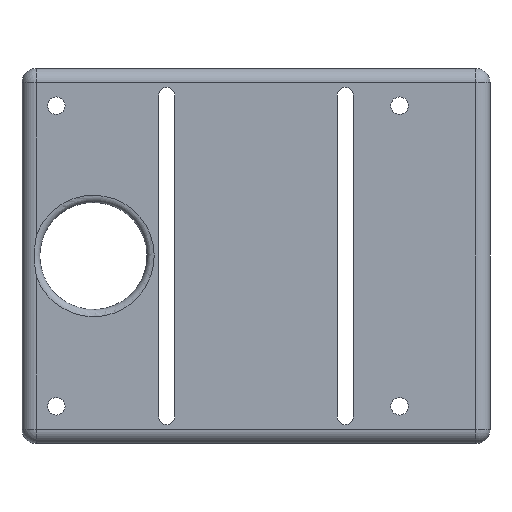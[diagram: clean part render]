
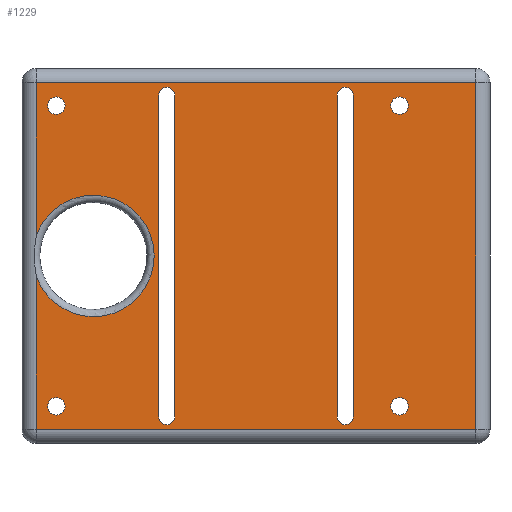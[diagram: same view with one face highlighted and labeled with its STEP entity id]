
A CAD part, left-side view. The second image highlights one B-rep face of the part: STEP entity #1229.
In plain terms, the highlighted planar face has unit normal (-1, 0, 0).
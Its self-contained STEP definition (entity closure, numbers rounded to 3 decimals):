
#27=FACE_BOUND('',#428,.T.);
#28=FACE_BOUND('',#429,.T.);
#29=FACE_BOUND('',#430,.T.);
#30=FACE_BOUND('',#431,.T.);
#31=FACE_BOUND('',#432,.T.);
#32=FACE_BOUND('',#433,.T.);
#57=PLANE('',#1351);
#83=LINE('',#1817,#185);
#85=LINE('',#1824,#187);
#138=LINE('',#2067,#240);
#139=LINE('',#2069,#241);
#141=LINE('',#2072,#243);
#145=LINE('',#2091,#247);
#146=LINE('',#2095,#248);
#147=LINE('',#2101,#249);
#148=LINE('',#2104,#250);
#185=VECTOR('',#1425,10.);
#187=VECTOR('',#1431,10.);
#240=VECTOR('',#1602,10.);
#241=VECTOR('',#1605,10.);
#243=VECTOR('',#1609,10.);
#247=VECTOR('',#1631,10.);
#248=VECTOR('',#1634,10.);
#249=VECTOR('',#1639,10.);
#250=VECTOR('',#1642,10.);
#352=FACE_OUTER_BOUND('',#427,.T.);
#427=EDGE_LOOP('',(#1023,#1024,#1025,#1026,#1027,#1028,#1029));
#428=EDGE_LOOP('',(#1030));
#429=EDGE_LOOP('',(#1031));
#430=EDGE_LOOP('',(#1032));
#431=EDGE_LOOP('',(#1033));
#432=EDGE_LOOP('',(#1034,#1035,#1036,#1037));
#433=EDGE_LOOP('',(#1038,#1039,#1040,#1041));
#479=CIRCLE('',#1278,8.5);
#483=CIRCLE('',#1282,8.5);
#516=CIRCLE('',#1352,1.225);
#517=CIRCLE('',#1353,1.225);
#518=CIRCLE('',#1354,1.225);
#519=CIRCLE('',#1355,1.225);
#520=CIRCLE('',#1356,1.125);
#521=CIRCLE('',#1357,1.125);
#522=CIRCLE('',#1358,1.125);
#523=CIRCLE('',#1359,1.125);
#550=VERTEX_POINT('',#1779);
#551=VERTEX_POINT('',#1780);
#552=VERTEX_POINT('',#1795);
#556=VERTEX_POINT('',#1816);
#559=VERTEX_POINT('',#1822);
#621=VERTEX_POINT('',#2059);
#622=VERTEX_POINT('',#2063);
#623=VERTEX_POINT('',#2081);
#624=VERTEX_POINT('',#2083);
#625=VERTEX_POINT('',#2085);
#626=VERTEX_POINT('',#2087);
#627=VERTEX_POINT('',#2089);
#628=VERTEX_POINT('',#2090);
#629=VERTEX_POINT('',#2092);
#630=VERTEX_POINT('',#2094);
#631=VERTEX_POINT('',#2097);
#632=VERTEX_POINT('',#2098);
#633=VERTEX_POINT('',#2100);
#634=VERTEX_POINT('',#2102);
#661=EDGE_CURVE('',#551,#552,#479,.T.);
#666=EDGE_CURVE('',#552,#550,#483,.T.);
#667=EDGE_CURVE('',#550,#556,#83,.T.);
#671=EDGE_CURVE('',#559,#551,#85,.T.);
#766=EDGE_CURVE('',#621,#622,#138,.T.);
#767=EDGE_CURVE('',#622,#559,#139,.T.);
#769=EDGE_CURVE('',#556,#621,#141,.T.);
#773=EDGE_CURVE('',#623,#623,#516,.T.);
#774=EDGE_CURVE('',#624,#624,#517,.T.);
#775=EDGE_CURVE('',#625,#625,#518,.T.);
#776=EDGE_CURVE('',#626,#626,#519,.T.);
#777=EDGE_CURVE('',#627,#628,#145,.T.);
#778=EDGE_CURVE('',#628,#629,#520,.T.);
#779=EDGE_CURVE('',#629,#630,#146,.T.);
#780=EDGE_CURVE('',#630,#627,#521,.T.);
#781=EDGE_CURVE('',#631,#632,#522,.T.);
#782=EDGE_CURVE('',#632,#633,#147,.T.);
#783=EDGE_CURVE('',#633,#634,#523,.T.);
#784=EDGE_CURVE('',#634,#631,#148,.T.);
#1023=ORIENTED_EDGE('',*,*,#661,.F.);
#1024=ORIENTED_EDGE('',*,*,#671,.F.);
#1025=ORIENTED_EDGE('',*,*,#767,.F.);
#1026=ORIENTED_EDGE('',*,*,#766,.F.);
#1027=ORIENTED_EDGE('',*,*,#769,.F.);
#1028=ORIENTED_EDGE('',*,*,#667,.F.);
#1029=ORIENTED_EDGE('',*,*,#666,.F.);
#1030=ORIENTED_EDGE('',*,*,#773,.T.);
#1031=ORIENTED_EDGE('',*,*,#774,.T.);
#1032=ORIENTED_EDGE('',*,*,#775,.T.);
#1033=ORIENTED_EDGE('',*,*,#776,.T.);
#1034=ORIENTED_EDGE('',*,*,#777,.T.);
#1035=ORIENTED_EDGE('',*,*,#778,.T.);
#1036=ORIENTED_EDGE('',*,*,#779,.T.);
#1037=ORIENTED_EDGE('',*,*,#780,.T.);
#1038=ORIENTED_EDGE('',*,*,#781,.T.);
#1039=ORIENTED_EDGE('',*,*,#782,.T.);
#1040=ORIENTED_EDGE('',*,*,#783,.T.);
#1041=ORIENTED_EDGE('',*,*,#784,.T.);
#1229=ADVANCED_FACE('',(#352,#27,#28,#29,#30,#31,#32),#57,.F.);
#1278=AXIS2_PLACEMENT_3D('',#1796,#1413,#1414);
#1282=AXIS2_PLACEMENT_3D('',#1814,#1421,#1422);
#1351=AXIS2_PLACEMENT_3D('',#2080,#1621,#1622);
#1352=AXIS2_PLACEMENT_3D('',#2082,#1623,#1624);
#1353=AXIS2_PLACEMENT_3D('',#2084,#1625,#1626);
#1354=AXIS2_PLACEMENT_3D('',#2086,#1627,#1628);
#1355=AXIS2_PLACEMENT_3D('',#2088,#1629,#1630);
#1356=AXIS2_PLACEMENT_3D('',#2093,#1632,#1633);
#1357=AXIS2_PLACEMENT_3D('',#2096,#1635,#1636);
#1358=AXIS2_PLACEMENT_3D('',#2099,#1637,#1638);
#1359=AXIS2_PLACEMENT_3D('',#2103,#1640,#1641);
#1413=DIRECTION('center_axis',(-1.,0.,0.));
#1414=DIRECTION('ref_axis',(0.,-1.,0.));
#1421=DIRECTION('center_axis',(-1.,0.,0.));
#1422=DIRECTION('ref_axis',(0.,-1.,0.));
#1425=DIRECTION('',(0.,0.,1.));
#1431=DIRECTION('',(0.,0.,1.));
#1602=DIRECTION('',(0.,0.,-1.));
#1605=DIRECTION('',(0.,1.,0.));
#1609=DIRECTION('',(0.,-1.,0.));
#1621=DIRECTION('center_axis',(1.,0.,0.));
#1622=DIRECTION('ref_axis',(0.,1.,0.));
#1623=DIRECTION('center_axis',(1.,0.,0.));
#1624=DIRECTION('ref_axis',(0.,1.,0.));
#1625=DIRECTION('center_axis',(1.,0.,0.));
#1626=DIRECTION('ref_axis',(0.,1.,0.));
#1627=DIRECTION('center_axis',(1.,0.,0.));
#1628=DIRECTION('ref_axis',(0.,1.,0.));
#1629=DIRECTION('center_axis',(1.,0.,0.));
#1630=DIRECTION('ref_axis',(0.,1.,0.));
#1631=DIRECTION('',(0.,0.,1.));
#1632=DIRECTION('center_axis',(1.,0.,0.));
#1633=DIRECTION('ref_axis',(0.,-1.,0.));
#1634=DIRECTION('',(0.,0.,-1.));
#1635=DIRECTION('center_axis',(1.,0.,0.));
#1636=DIRECTION('ref_axis',(0.,-1.,0.));
#1637=DIRECTION('center_axis',(1.,0.,0.));
#1638=DIRECTION('ref_axis',(0.,-1.,0.));
#1639=DIRECTION('',(0.,0.,-1.));
#1640=DIRECTION('center_axis',(1.,0.,0.));
#1641=DIRECTION('ref_axis',(0.,-1.,0.));
#1642=DIRECTION('',(0.,0.,1.));
#1779=CARTESIAN_POINT('',(0.,33.49,7.439));
#1780=CARTESIAN_POINT('',(0.,33.49,1.694));
#1795=CARTESIAN_POINT('',(0.,25.49,13.066));
#1796=CARTESIAN_POINT('Origin',(0.,25.49,4.566));
#1814=CARTESIAN_POINT('Origin',(0.,25.49,4.566));
#1816=CARTESIAN_POINT('',(0.,33.49,28.816));
#1817=CARTESIAN_POINT('',(0.,33.49,-8.559));
#1822=CARTESIAN_POINT('',(0.,33.49,-19.684));
#1824=CARTESIAN_POINT('',(0.,33.49,-8.559));
#2059=CARTESIAN_POINT('',(0.,-28.01,28.816));
#2063=CARTESIAN_POINT('',(0.,-28.01,-19.684));
#2067=CARTESIAN_POINT('',(0.,-28.01,17.691));
#2069=CARTESIAN_POINT('',(0.,-13.635,-19.684));
#2072=CARTESIAN_POINT('',(0.,19.115,28.816));
#2080=CARTESIAN_POINT('Origin',(0.,2.74,
4.566));
#2081=CARTESIAN_POINT('',(0.,-18.585,-16.469));
#2082=CARTESIAN_POINT('Origin',(0.,-17.36,-16.469));
#2083=CARTESIAN_POINT('',(0.,29.455,25.601));
#2084=CARTESIAN_POINT('Origin',(0.,30.68,25.601));
#2085=CARTESIAN_POINT('',(0.,-18.585,25.601));
#2086=CARTESIAN_POINT('Origin',(0.,-17.36,25.601));
#2087=CARTESIAN_POINT('',(0.,29.455,-16.469));
#2088=CARTESIAN_POINT('Origin',(0.,30.68,-16.469));
#2089=CARTESIAN_POINT('',(0.,16.365,-17.934));
#2090=CARTESIAN_POINT('',(0.,16.365,27.066));
#2091=CARTESIAN_POINT('',(0.,16.365,-6.684));
#2092=CARTESIAN_POINT('',(0.,14.115,27.066));
#2093=CARTESIAN_POINT('Origin',(0.,15.24,27.066));
#2094=CARTESIAN_POINT('',(0.,14.115,-17.934));
#2095=CARTESIAN_POINT('',(0.,14.115,15.816));
#2096=CARTESIAN_POINT('Origin',(0.,15.24,-17.934));
#2097=CARTESIAN_POINT('',(0.,-8.635,27.066));
#2098=CARTESIAN_POINT('',(0.,-10.885,27.066));
#2099=CARTESIAN_POINT('Origin',(0.,-9.76,
27.066));
#2100=CARTESIAN_POINT('',(0.,-10.885,-17.934));
#2101=CARTESIAN_POINT('',(0.,-10.885,15.816));
#2102=CARTESIAN_POINT('',(0.,-8.635,-17.934));
#2103=CARTESIAN_POINT('Origin',(0.,-9.76,
-17.934));
#2104=CARTESIAN_POINT('',(0.,-8.635,-6.684));
